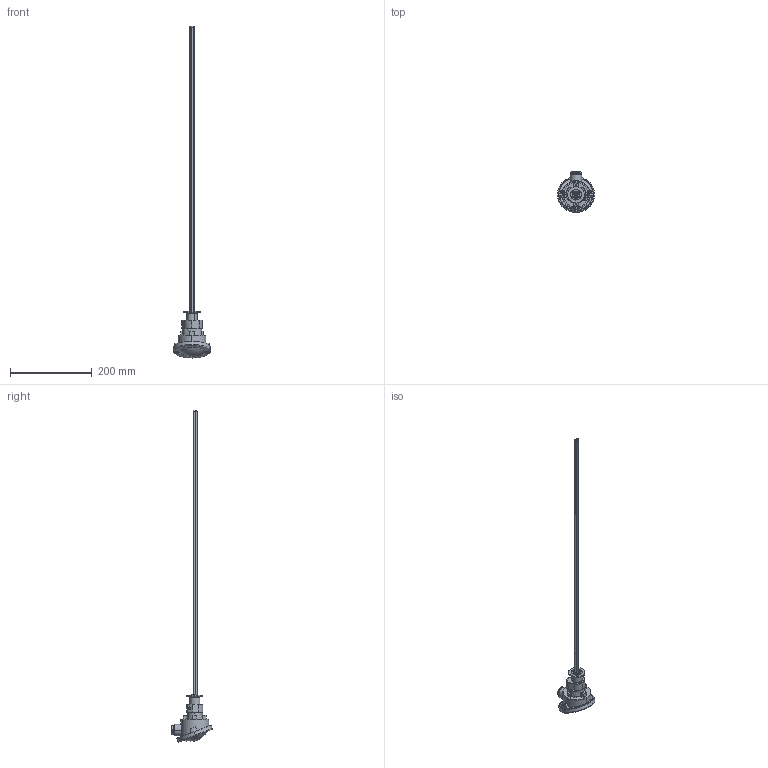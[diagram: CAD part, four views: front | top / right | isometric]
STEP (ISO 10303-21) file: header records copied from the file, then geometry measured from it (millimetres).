
FILE_DESCRIPTION (( 'STEP AP214' ), '1' );
FILE_NAME ('13-0503-KF25.STEP', '2018-08-31T08:58:54', ( '' ), ( '' ), 'SwSTEP 2.0', 'SolidWorks 2018', '' );
FILE_SCHEMA (( 'AUTOMOTIVE_DESIGN' ));
Length unit declared in the file: millimetre
Products named in the file (30): Deckel^Anschlusskopf_Form_A; Kopfeinsatz_Dichtring_Deckel; Scheibe_M5_Kopf; plot4; Schraube_M5_Kopf; Kapillar_600; Kopfeinsatz_Deckel; 22-0503-1053-01; Anschlusskopf_Form_A_Kopf; Montageplatte_3fach; 22-2003-1103-02; slotted cheese head screw_din_ISO 1207 - M4 x 16 --- 16N; 22-2003-0102-01; slotted pan head screw_din_ISO 1580 - M4 x 6 --- 6C; Keramikrorh_740_NL700; 22-0000-1018-01; DIN 84 M3 x 30 A4; Luesterklemme_BG; DIN 84 M3 x 30 A4  3fach; Schraube_M3; 22-0503-1101-03; Einschub; Luesterklemme; 13-0503-KF25; Anschlusskopf_Form_A; socket set screw cup point_din_DIN 916 - M6 x 8-C; Kabelverschraubung^Anschlusskopf_Form_A; Kopfeinsatz_Gummi; Kopfeinsatz_Mutter; Kopfeinsatz_QUteschring
Assembly tree (44 placements, depth 4):
  13-0503-KF25
    22-0503-1101-03
    DIN 84 M3 x 30 A4  3fach  x2
    DIN 84 M3 x 30 A4
    Keramikrorh_740_NL700  x3
    22-2003-0102-01
    22-2003-1103-02
    Anschlusskopf_Form_A
      Anschlusskopf_Form_A_Kopf
      Deckel^Anschlusskopf_Form_A
        Kopfeinsatz_Deckel
        Schraube_M5_Kopf  x2
        Scheibe_M5_Kopf  x2
        Kopfeinsatz_Dichtring_Deckel
      Kabelverschraubung^Anschlusskopf_Form_A
        Kopfeinsatz_QUteschring
        Kopfeinsatz_Mutter
        Kopfeinsatz_Gummi
      socket set screw cup point_din_DIN 916 - M6 x 8-C  x2
    Montageplatte_3fach
      Luesterklemme_BG  x2
        Luesterklemme
        Einschub
        Schraube_M3
      22-0000-1018-01  x2
      slotted pan head screw_din_ISO 1580 - M4 x 6 --- 6C  x2
      slotted cheese head screw_din_ISO 1207 - M4 x 16 --- 16N  x2
    22-0503-1053-01
    Kapillar_600  x2
    plot4
Bounding box: 90 x 99.48 x 811.53 mm (x, y, z)
Volume: 205170.1 mm3; surface area: 174403.8 mm2
Topology: 45 solids, 45 shells, 972 faces, 2338 edges, 1438 vertices
Faces by surface type: cylinder 427, plane 323, cone 82, bspline 58, torus 42, sphere 40
Entity records: 24197 total; most frequent: CARTESIAN_POINT 7288, DIRECTION 3289, ORIENTED_EDGE 3072, EDGE_CURVE 1536, AXIS2_PLACEMENT_3D 1342, VERTEX_POINT 954, EDGE_LOOP 800, CIRCLE 685
